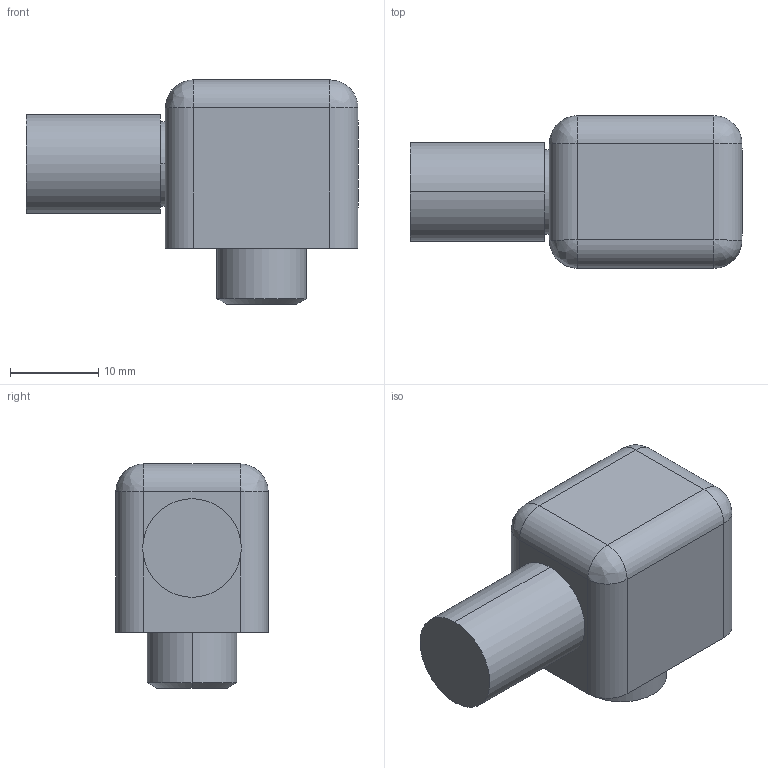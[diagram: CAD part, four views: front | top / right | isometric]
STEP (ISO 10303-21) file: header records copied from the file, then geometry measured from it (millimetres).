
FILE_DESCRIPTION (( 'STEP AP214' ), '1' );
FILE_NAME ('sp-pressure-switch-fitting-2.STEP', '2012-12-05T23:17:01', ( '' ), ( '' ), 'SwSTEP 2.0', 'SolidWorks 2012', '' );
FILE_SCHEMA (( 'AUTOMOTIVE_DESIGN' ));
Length unit declared in the file: inch
Products named in the file (1): sp-pressure-switch-fitting-2
Bounding box: 37.64 x 17.27 x 25.4 mm (x, y, z)
Volume: 8083.7 mm3; surface area: 3265.5 mm2
Topology: 1 solids, 1 shells, 36 faces, 77 edges, 44 vertices
Faces by surface type: cylinder 20, plane 10, bspline 4, cone 2
Entity records: 1139 total; most frequent: CARTESIAN_POINT 262, DIRECTION 171, ORIENTED_EDGE 146, EDGE_CURVE 73, AXIS2_PLACEMENT_3D 69, VERTEX_POINT 44, EDGE_LOOP 41, FACE_OUTER_BOUND 36
